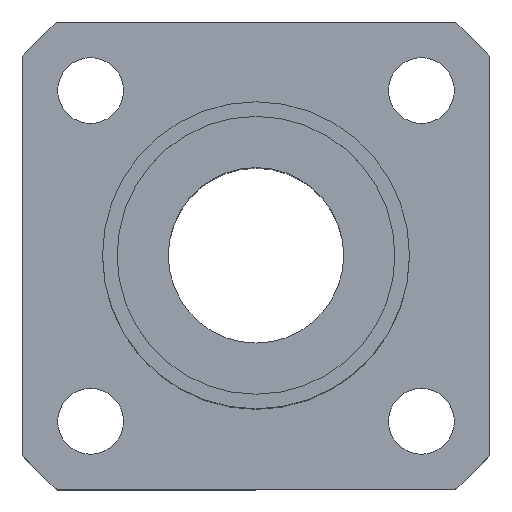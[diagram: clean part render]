
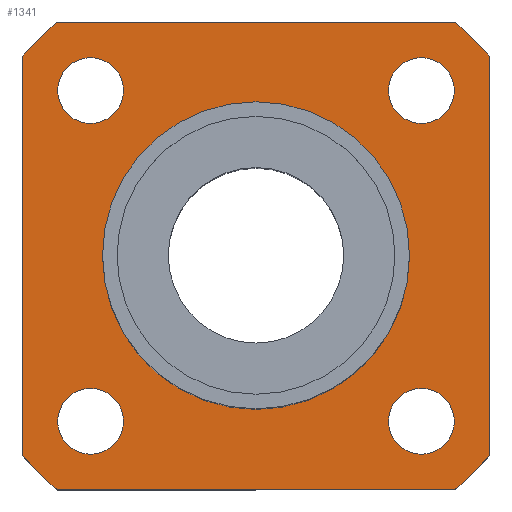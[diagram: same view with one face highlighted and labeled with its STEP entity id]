
A CAD part, top view. The second image highlights one B-rep face of the part: STEP entity #1341.
In plain terms, the highlighted planar face has unit normal (0, 0, 1).
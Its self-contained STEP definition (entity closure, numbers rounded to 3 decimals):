
#91=CARTESIAN_POINT('',(-24.531,3.294,6.0));
#92=VERTEX_POINT('',#91);
#101=CARTESIAN_POINT('',(-3.531,3.294,6.));
#102=VERTEX_POINT('',#101);
#103=CARTESIAN_POINT('',(-14.031,3.294,6.));
#104=DIRECTION('',(0.0,0.0,-1.0));
#105=DIRECTION('',(-1.0,0.0,0.0));
#106=AXIS2_PLACEMENT_3D('',#103,#104,#105);
#107=CIRCLE('',#106,10.5);
#108=EDGE_CURVE('',#102,#92,#107,.T.);
#217=CARTESIAN_POINT('',(-23.094,-8.019,6.));
#218=VERTEX_POINT('',#217);
#227=CARTESIAN_POINT('',(-27.594,-8.019,6.));
#228=VERTEX_POINT('',#227);
#229=CARTESIAN_POINT('',(-25.344,-8.019,6.));
#230=DIRECTION('',(0.0,0.0,-1.0));
#231=DIRECTION('',(1.0,0.0,0.0));
#232=AXIS2_PLACEMENT_3D('',#229,#230,#231);
#233=CIRCLE('',#232,2.25);
#234=EDGE_CURVE('',#228,#218,#233,.T.);
#301=CARTESIAN_POINT('',(-0.467,14.608,6.));
#302=VERTEX_POINT('',#301);
#311=CARTESIAN_POINT('',(-4.967,14.608,6.));
#312=VERTEX_POINT('',#311);
#313=CARTESIAN_POINT('',(-2.717,14.608,6.));
#314=DIRECTION('',(0.0,0.0,-1.0));
#315=DIRECTION('',(1.0,0.0,0.0));
#316=AXIS2_PLACEMENT_3D('',#313,#314,#315);
#317=CIRCLE('',#316,2.25);
#318=EDGE_CURVE('',#312,#302,#317,.T.);
#385=CARTESIAN_POINT('',(-23.094,14.608,6.));
#386=VERTEX_POINT('',#385);
#395=CARTESIAN_POINT('',(-27.594,14.608,6.));
#396=VERTEX_POINT('',#395);
#397=CARTESIAN_POINT('',(-25.344,14.608,6.));
#398=DIRECTION('',(0.0,0.0,-1.0));
#399=DIRECTION('',(1.0,0.0,0.0));
#400=AXIS2_PLACEMENT_3D('',#397,#398,#399);
#401=CIRCLE('',#400,2.25);
#402=EDGE_CURVE('',#396,#386,#401,.T.);
#469=CARTESIAN_POINT('',(-0.467,-8.019,6.));
#470=VERTEX_POINT('',#469);
#479=CARTESIAN_POINT('',(-4.967,-8.019,6.));
#480=VERTEX_POINT('',#479);
#481=CARTESIAN_POINT('',(-2.717,-8.019,6.));
#482=DIRECTION('',(0.0,0.0,-1.0));
#483=DIRECTION('',(1.0,0.0,0.0));
#484=AXIS2_PLACEMENT_3D('',#481,#482,#483);
#485=CIRCLE('',#484,2.25);
#486=EDGE_CURVE('',#480,#470,#485,.T.);
#686=CARTESIAN_POINT('',(-2.717,-8.019,6.));
#687=DIRECTION('',(0.0,0.0,-1.0));
#688=DIRECTION('',(1.0,0.0,0.0));
#689=AXIS2_PLACEMENT_3D('',#686,#687,#688);
#690=CIRCLE('',#689,2.25);
#691=EDGE_CURVE('',#470,#480,#690,.T.);
#748=CARTESIAN_POINT('',(-25.344,14.608,6.));
#749=DIRECTION('',(0.0,0.0,-1.0));
#750=DIRECTION('',(1.0,0.0,0.0));
#751=AXIS2_PLACEMENT_3D('',#748,#749,#750);
#752=CIRCLE('',#751,2.25);
#753=EDGE_CURVE('',#386,#396,#752,.T.);
#810=CARTESIAN_POINT('',(-2.717,14.608,6.));
#811=DIRECTION('',(0.0,0.0,-1.0));
#812=DIRECTION('',(1.0,0.0,0.0));
#813=AXIS2_PLACEMENT_3D('',#810,#811,#812);
#814=CIRCLE('',#813,2.25);
#815=EDGE_CURVE('',#302,#312,#814,.T.);
#872=CARTESIAN_POINT('',(-25.344,-8.019,6.));
#873=DIRECTION('',(0.0,0.0,-1.0));
#874=DIRECTION('',(1.0,0.0,0.0));
#875=AXIS2_PLACEMENT_3D('',#872,#873,#874);
#876=CIRCLE('',#875,2.25);
#877=EDGE_CURVE('',#218,#228,#876,.T.);
#1074=CARTESIAN_POINT('',(-14.031,3.294,6.));
#1075=DIRECTION('',(0.0,0.0,-1.0));
#1076=DIRECTION('',(-1.0,0.0,0.0));
#1077=AXIS2_PLACEMENT_3D('',#1074,#1075,#1076);
#1078=CIRCLE('',#1077,10.5);
#1079=EDGE_CURVE('',#92,#102,#1078,.T.);
#1115=CARTESIAN_POINT('',(-0.429,19.294,6.));
#1116=VERTEX_POINT('',#1115);
#1117=CARTESIAN_POINT('',(1.969,16.896,6.));
#1118=VERTEX_POINT('',#1117);
#1119=CARTESIAN_POINT('',(-14.031,3.294,6.));
#1120=DIRECTION('',(0.0,0.0,-1.));
#1121=DIRECTION('',(0.762,0.648,0.0));
#1122=AXIS2_PLACEMENT_3D('',#1119,#1120,#1121);
#1123=CIRCLE('',#1122,21.);
#1124=EDGE_CURVE('',#1116,#1118,#1123,.T.);
#1147=CARTESIAN_POINT('',(1.969,-10.307,6.));
#1148=VERTEX_POINT('',#1147);
#1149=CARTESIAN_POINT('',(1.969,16.896,6.));
#1150=DIRECTION('',(0.0,-1.0,0.0));
#1151=VECTOR('',#1150,27.203);
#1152=LINE('',#1149,#1151);
#1153=EDGE_CURVE('',#1118,#1148,#1152,.T.);
#1171=CARTESIAN_POINT('',(-0.429,-12.706,6.));
#1172=VERTEX_POINT('',#1171);
#1173=CARTESIAN_POINT('',(-14.031,3.294,6.));
#1174=DIRECTION('',(0.0,0.0,-1.0));
#1175=DIRECTION('',(0.648,-0.762,0.0));
#1176=AXIS2_PLACEMENT_3D('',#1173,#1174,#1175);
#1177=CIRCLE('',#1176,21.0);
#1178=EDGE_CURVE('',#1148,#1172,#1177,.T.);
#1196=CARTESIAN_POINT('',(-27.632,-12.706,6.));
#1197=VERTEX_POINT('',#1196);
#1198=CARTESIAN_POINT('',(-0.429,-12.706,6.));
#1199=DIRECTION('',(-1.0,0.0,0.0));
#1200=VECTOR('',#1199,27.203);
#1201=LINE('',#1198,#1200);
#1202=EDGE_CURVE('',#1172,#1197,#1201,.T.);
#1220=CARTESIAN_POINT('',(-30.031,-10.307,6.));
#1221=VERTEX_POINT('',#1220);
#1222=CARTESIAN_POINT('',(-14.031,3.294,6.));
#1223=DIRECTION('',(0.0,0.0,-1.0));
#1224=DIRECTION('',(-0.762,-0.648,0.0));
#1225=AXIS2_PLACEMENT_3D('',#1222,#1223,#1224);
#1226=CIRCLE('',#1225,21.0);
#1227=EDGE_CURVE('',#1197,#1221,#1226,.T.);
#1245=CARTESIAN_POINT('',(-30.031,16.896,6.));
#1246=VERTEX_POINT('',#1245);
#1247=CARTESIAN_POINT('',(-30.031,-10.307,6.));
#1248=DIRECTION('',(0.0,1.0,0.0));
#1249=VECTOR('',#1248,27.203);
#1250=LINE('',#1247,#1249);
#1251=EDGE_CURVE('',#1221,#1246,#1250,.T.);
#1269=CARTESIAN_POINT('',(-27.632,19.294,6.));
#1270=VERTEX_POINT('',#1269);
#1271=CARTESIAN_POINT('',(-14.031,3.294,6.));
#1272=DIRECTION('',(0.0,0.0,-1.));
#1273=DIRECTION('',(-0.648,0.762,0.0));
#1274=AXIS2_PLACEMENT_3D('',#1271,#1272,#1273);
#1275=CIRCLE('',#1274,21.);
#1276=EDGE_CURVE('',#1246,#1270,#1275,.T.);
#1294=CARTESIAN_POINT('',(-27.632,19.294,6.));
#1295=DIRECTION('',(1.0,0.0,0.0));
#1296=VECTOR('',#1295,27.203);
#1297=LINE('',#1294,#1296);
#1298=EDGE_CURVE('',#1270,#1116,#1297,.T.);
#1306=CARTESIAN_POINT('',(-14.031,3.294,6.));
#1307=DIRECTION('',(0.0,0.0,1.0));
#1308=DIRECTION('',(1.0,0.0,0.0));
#1309=AXIS2_PLACEMENT_3D('',#1306,#1307,#1308);
#1310=PLANE('',#1309);
#1311=ORIENTED_EDGE('',*,*,#1124,.F.);
#1312=ORIENTED_EDGE('',*,*,#1298,.F.);
#1313=ORIENTED_EDGE('',*,*,#1276,.F.);
#1314=ORIENTED_EDGE('',*,*,#1251,.F.);
#1315=ORIENTED_EDGE('',*,*,#1227,.F.);
#1316=ORIENTED_EDGE('',*,*,#1202,.F.);
#1317=ORIENTED_EDGE('',*,*,#1178,.F.);
#1318=ORIENTED_EDGE('',*,*,#1153,.F.);
#1319=EDGE_LOOP('',(#1311,#1312,#1313,#1314,#1315,#1316,#1317,#1318));
#1320=FACE_OUTER_BOUND('',#1319,.T.);
#1321=ORIENTED_EDGE('',*,*,#486,.T.);
#1322=ORIENTED_EDGE('',*,*,#691,.T.);
#1323=EDGE_LOOP('',(#1321,#1322));
#1324=FACE_BOUND('',#1323,.T.);
#1325=ORIENTED_EDGE('',*,*,#402,.T.);
#1326=ORIENTED_EDGE('',*,*,#753,.T.);
#1327=EDGE_LOOP('',(#1325,#1326));
#1328=FACE_BOUND('',#1327,.T.);
#1329=ORIENTED_EDGE('',*,*,#318,.T.);
#1330=ORIENTED_EDGE('',*,*,#815,.T.);
#1331=EDGE_LOOP('',(#1329,#1330));
#1332=FACE_BOUND('',#1331,.T.);
#1333=ORIENTED_EDGE('',*,*,#234,.T.);
#1334=ORIENTED_EDGE('',*,*,#877,.T.);
#1335=EDGE_LOOP('',(#1333,#1334));
#1336=FACE_BOUND('',#1335,.T.);
#1337=ORIENTED_EDGE('',*,*,#108,.T.);
#1338=ORIENTED_EDGE('',*,*,#1079,.T.);
#1339=EDGE_LOOP('',(#1337,#1338));
#1340=FACE_BOUND('',#1339,.T.);
#1341=ADVANCED_FACE('',(#1320,#1324,#1328,#1332,#1336,#1340),#1310,.T.);
